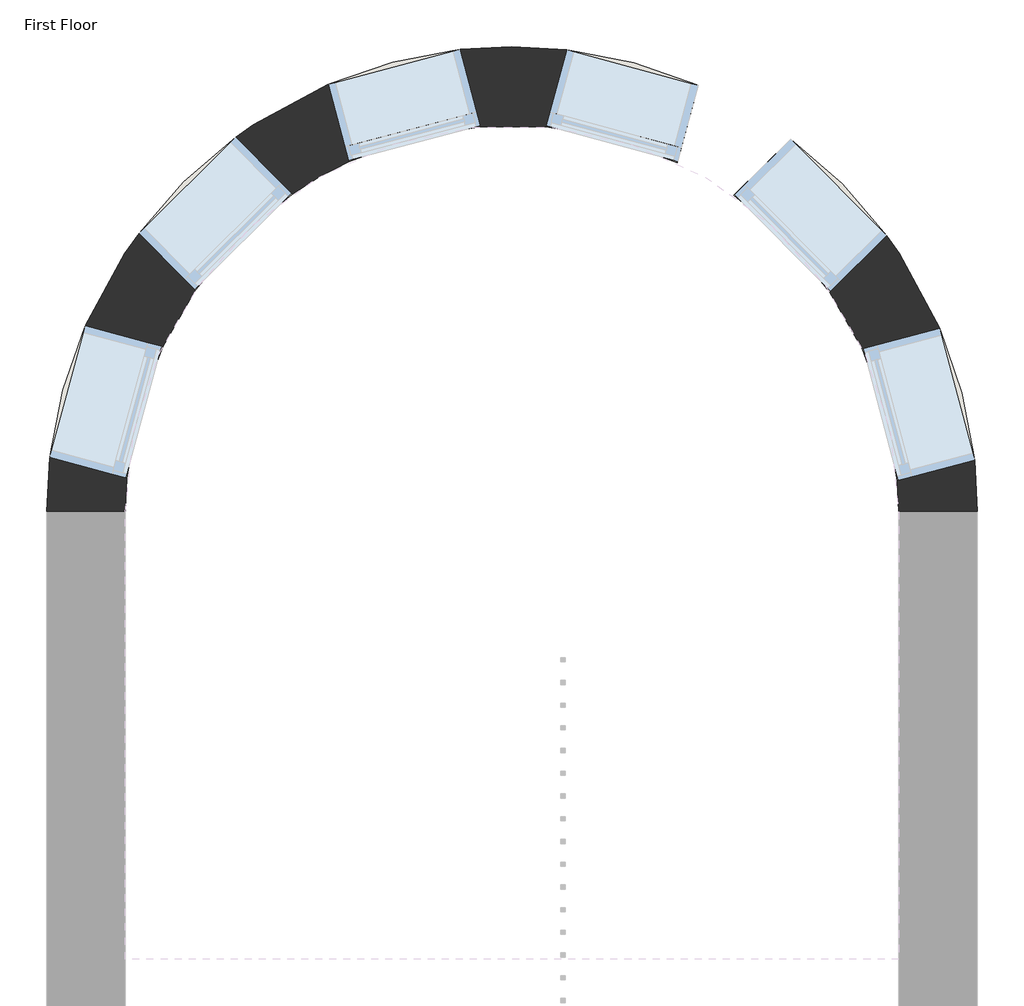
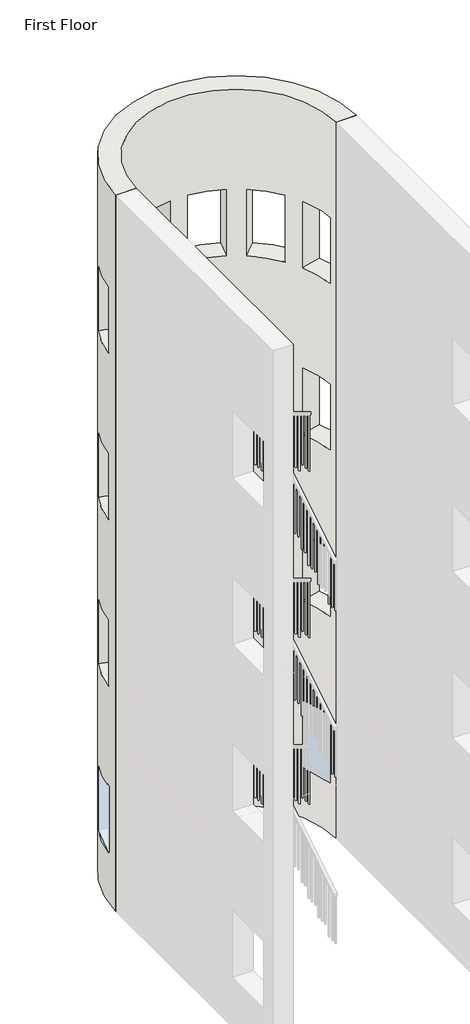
# One storey, part 2 of 5: 1 wall.
"""IFC4 building model written with IfcOpenShell, lengths in millimetres."""

from ifc_helpers import new_model, si_unit, frame, origin, place, context, project, spatial, polyline, circle_curve, element, save
from ifc_brep_helpers import plane_surface, cylinder_surface, revolved_surface, advanced_brep

model = new_model("IFC4")

# Units and contexts
model_context = context("Model", 3, world=origin())
ifc_project = project(units=[si_unit("LENGTHUNIT", "METRE", prefix="MILLI")], contexts=[model_context])

# Site, building, storey
site = spatial("IfcSite", under=ifc_project)
building = spatial("IfcBuilding", under=site)
storey = spatial("IfcBuildingStorey", under=building, Name="First Floor", Elevation=0.0)

# Wall
placement = place(None, origin())
element("IfcWall", 1, ObjectType="Exterior - Brick on Mtl. Stud", at=placement, inside=storey, context=model_context, shape_type="AdvancedBrep", body=[
    advanced_brep(
    [(-4164.4024687, 9592.7758812, 13106.4), (-8326.8274687, 9592.7758812, 13106.4), (-7974.4024687, 9592.7758812, 13106.4), (-4516.8274687, 9592.7758812, 13106.4), (-8326.8274687, 9592.7758812, 0.0), (-4164.4024687, 9592.7758812, 0.0), (-4516.8274687, 9592.7758812, 0.0), (-7974.4024687, 9592.7758812, 0.0), (-8312.3878938, 9837.5107303, 914.4), (-8152.818084, 10425.8555575, 914.4), (-8152.818084, 10425.8555575, 2133.6), (-8312.3878938, 9837.5107303, 2133.6), (-7913.1254012, 10838.1089402, 2133.6), (-7913.1254012, 10838.1089402, 914.4), (-7480.7614786, 11267.8456019, 914.4), (-7480.7614786, 11267.8456019, 2133.6), (-7067.0548348, 11505.0211627, 2133.6), (-7067.0548348, 11505.0211627, 914.4), (-6477.7483633, 11661.0020674, 914.4), (-6477.7483633, 11661.0020674, 2133.6), (-6000.8801197, 11659.5488063, 2133.6), (-6000.8801197, 11659.5488063, 914.4), (-5412.5352924, 11499.9789965, 914.4), (-5412.5352924, 11499.9789965, 2133.6), (-5000.2819097, 11260.2863136, 2133.6), (-5000.2819097, 11260.2863136, 914.4), (-4570.545248, 10827.922391, 914.4), (-4570.545248, 10827.922391, 2133.6), (-4333.3696872, 10414.2157472, 2133.6), (-4333.3696872, 10414.2157472, 914.4), (-4177.3887825, 9824.9092757, 914.4), (-4177.3887825, 9824.9092757, 2133.6), (-4333.3696872, 10414.2157472, 11277.6), (-4333.3696872, 10414.2157472, 10058.4), (-4177.3887825, 9824.9092757, 10058.4), (-4177.3887825, 9824.9092757, 11277.6), (-5000.2819097, 11260.2863136, 11277.6), (-5000.2819097, 11260.2863136, 10058.4), (-4570.545248, 10827.922391, 10058.4), (-4570.545248, 10827.922391, 11277.6), (-6000.8801197, 11659.5488063, 11277.6), (-6000.8801197, 11659.5488063, 10058.4), (-5412.5352924, 11499.9789965, 10058.4), (-5412.5352924, 11499.9789965, 11277.6), (-7067.0548348, 11505.0211627, 11277.6), (-7067.0548348, 11505.0211627, 10058.4), (-6477.7483633, 11661.0020674, 10058.4), (-6477.7483633, 11661.0020674, 11277.6), (-7913.1254012, 10838.1089402, 11277.6), (-7913.1254012, 10838.1089402, 10058.4), (-7480.7614786, 11267.8456019, 10058.4), (-7480.7614786, 11267.8456019, 11277.6), (-8312.3878938, 9837.5107303, 11277.6), (-8312.3878938, 9837.5107303, 10058.4), (-8152.818084, 10425.8555575, 10058.4), (-8152.818084, 10425.8555575, 11277.6), (-4333.3696872, 10414.2157472, 5181.6), (-4333.3696872, 10414.2157472, 3962.4), (-4177.3887825, 9824.9092757, 3962.4), (-4177.3887825, 9824.9092757, 5181.6), (-5000.2819097, 11260.2863136, 5181.6), (-5000.2819097, 11260.2863136, 3962.4), (-4570.545248, 10827.922391, 3962.4), (-4570.545248, 10827.922391, 5181.6), (-6000.8801197, 11659.5488063, 5181.6), (-6000.8801197, 11659.5488063, 3962.4), (-5412.5352924, 11499.9789965, 3962.4), (-5412.5352924, 11499.9789965, 5181.6), (-7067.0548348, 11505.0211627, 5181.6), (-7067.0548348, 11505.0211627, 3962.4), (-6477.7483633, 11661.0020674, 3962.4), (-6477.7483633, 11661.0020674, 5181.6), (-7913.1254012, 10838.1089402, 5181.6), (-7913.1254012, 10838.1089402, 3962.4), (-7480.7614786, 11267.8456019, 3962.4), (-7480.7614786, 11267.8456019, 5181.6), (-8312.3878938, 9837.5107303, 5181.6), (-8312.3878938, 9837.5107303, 3962.4), (-8152.818084, 10425.8555575, 3962.4), (-8152.818084, 10425.8555575, 5181.6), (-4333.3696872, 10414.2157472, 8229.6), (-4333.3696872, 10414.2157472, 7010.4), (-4177.3887825, 9824.9092757, 7010.4), (-4177.3887825, 9824.9092757, 8229.6), (-5000.2819097, 11260.2863136, 8229.6), (-5000.2819097, 11260.2863136, 7010.4), (-4570.545248, 10827.922391, 7010.4), (-4570.545248, 10827.922391, 8229.6), (-6000.8801197, 11659.5488063, 8229.6), (-6000.8801197, 11659.5488063, 7010.4), (-5412.5352924, 11499.9789965, 7010.4), (-5412.5352924, 11499.9789965, 8229.6), (-7067.0548348, 11505.0211627, 8229.6), (-7067.0548348, 11505.0211627, 7010.4), (-6477.7483633, 11661.0020674, 7010.4), (-6477.7483633, 11661.0020674, 8229.6), (-7913.1254012, 10838.1089402, 8229.6), (-7913.1254012, 10838.1089402, 7010.4), (-7480.7614786, 11267.8456019, 7010.4), (-7480.7614786, 11267.8456019, 8229.6), (-8312.3878938, 9837.5107303, 8229.6), (-8312.3878938, 9837.5107303, 7010.4), (-8152.818084, 10425.8555575, 7010.4), (-8152.818084, 10425.8555575, 8229.6), (-7808.2019473, 10332.3893982, 914.4), (-7967.7717571, 9744.0445709, 914.4), (-7967.7717571, 9744.0445709, 2133.6), (-7808.2019473, 10332.3893982, 2133.6), (-7661.4121519, 10584.8568034, 914.4), (-7661.4121519, 10584.8568034, 2133.6), (-7229.0482293, 11014.5934652, 2133.6), (-7229.0482293, 11014.5934652, 914.4), (-6975.6908348, 11159.8417541, 914.4), (-6975.6908348, 11159.8417541, 2133.6), (-6386.3843633, 11315.8226588, 2133.6), (-6386.3843633, 11315.8226588, 914.4), (-6094.346279, 11314.9326695, 914.4), (-6094.346279, 11314.9326695, 2133.6), (-5506.0014517, 11155.3628598, 2133.6), (-5506.0014517, 11155.3628598, 914.4), (-5253.5340465, 11008.5730643, 914.4), (-5253.5340465, 11008.5730643, 2133.6), (-4823.7973847, 10576.2091417, 2133.6), (-4823.7973847, 10576.2091417, 914.4), (-4678.5490959, 10322.8517473, 914.4), (-4678.5490959, 10322.8517473, 2133.6), (-4522.5681912, 9733.5452757, 2133.6), (-4522.5681912, 9733.5452757, 914.4), (-4678.5490959, 10322.8517473, 10058.4), (-4678.5490959, 10322.8517473, 11277.6), (-4522.5681912, 9733.5452757, 11277.6), (-4522.5681912, 9733.5452757, 10058.4), (-5253.5340465, 11008.5730643, 10058.4), (-5253.5340465, 11008.5730643, 11277.6), (-4823.7973847, 10576.2091417, 11277.6), (-4823.7973847, 10576.2091417, 10058.4), (-6094.346279, 11314.9326695, 10058.4), (-6094.346279, 11314.9326695, 11277.6), (-5506.0014517, 11155.3628598, 11277.6), (-5506.0014517, 11155.3628598, 10058.4), (-6975.6908348, 11159.8417541, 10058.4), (-6975.6908348, 11159.8417541, 11277.6), (-6386.3843633, 11315.8226588, 11277.6), (-6386.3843633, 11315.8226588, 10058.4), (-7661.4121519, 10584.8568034, 10058.4), (-7661.4121519, 10584.8568034, 11277.6), (-7229.0482293, 11014.5934652, 11277.6), (-7229.0482293, 11014.5934652, 10058.4), (-7967.7717571, 9744.0445709, 10058.4), (-7967.7717571, 9744.0445709, 11277.6), (-7808.2019473, 10332.3893982, 11277.6), (-7808.2019473, 10332.3893982, 10058.4), (-4678.5490959, 10322.8517473, 3962.4), (-4678.5490959, 10322.8517473, 5181.6), (-4522.5681912, 9733.5452757, 5181.6), (-4522.5681912, 9733.5452757, 3962.4), (-5253.5340465, 11008.5730643, 3962.4), (-5253.5340465, 11008.5730643, 5181.6), (-4823.7973847, 10576.2091417, 5181.6), (-4823.7973847, 10576.2091417, 3962.4), (-6094.346279, 11314.9326695, 3962.4), (-6094.346279, 11314.9326695, 5181.6), (-5506.0014517, 11155.3628598, 5181.6), (-5506.0014517, 11155.3628598, 3962.4), (-6975.6908348, 11159.8417541, 3962.4), (-6975.6908348, 11159.8417541, 5181.6), (-6386.3843633, 11315.8226588, 5181.6), (-6386.3843633, 11315.8226588, 3962.4), (-7661.4121519, 10584.8568034, 3962.4), (-7661.4121519, 10584.8568034, 5181.6), (-7229.0482293, 11014.5934652, 5181.6), (-7229.0482293, 11014.5934652, 3962.4), (-7967.7717571, 9744.0445709, 3962.4), (-7967.7717571, 9744.0445709, 5181.6), (-7808.2019473, 10332.3893982, 5181.6), (-7808.2019473, 10332.3893982, 3962.4), (-4678.5490959, 10322.8517473, 7010.4), (-4678.5490959, 10322.8517473, 8229.6), (-4522.5681912, 9733.5452757, 8229.6), (-4522.5681912, 9733.5452757, 7010.4), (-5253.5340465, 11008.5730643, 7010.4), (-5253.5340465, 11008.5730643, 8229.6), (-4823.7973847, 10576.2091417, 8229.6), (-4823.7973847, 10576.2091417, 7010.4), (-6094.346279, 11314.9326695, 7010.4), (-6094.346279, 11314.9326695, 8229.6), (-5506.0014517, 11155.3628598, 8229.6), (-5506.0014517, 11155.3628598, 7010.4), (-6975.6908348, 11159.8417541, 7010.4), (-6975.6908348, 11159.8417541, 8229.6), (-6386.3843633, 11315.8226588, 8229.6), (-6386.3843633, 11315.8226588, 7010.4), (-7661.4121519, 10584.8568034, 7010.4), (-7661.4121519, 10584.8568034, 8229.6), (-7229.0482293, 11014.5934652, 8229.6), (-7229.0482293, 11014.5934652, 7010.4), (-7967.7717571, 9744.0445709, 7010.4), (-7967.7717571, 9744.0445709, 8229.6), (-7808.2019473, 10332.3893982, 8229.6), (-7808.2019473, 10332.3893982, 7010.4)],
    [
        (0, 1, circle_curve(frame((-6245.6149687, 9592.7758812, 13106.4), z_axis=(0.0, 0.0, 1.0), x_axis=(1.0, 0.0, 0.0)), 2081.2125)),
        (1, 2),
        (2, 3, circle_curve(frame((-6245.6149687, 9592.7758812, 13106.4), z_axis=(0.0, 0.0, -1.0), x_axis=(1.0, 0.0, 0.0)), 1728.7875)),
        (3, 0),
        (4, 5, circle_curve(frame((-6245.6149687, 9592.7758812, 0.0), z_axis=(0.0, 0.0, -1.0), x_axis=(1.0, 0.0, 0.0)), 2081.2125)),
        (5, 6),
        (6, 7, circle_curve(frame((-6245.6149687, 9592.7758812, 0.0), z_axis=(0.0, 0.0, 1.0), x_axis=(1.0, 0.0, 0.0)), 1728.7875)),
        (7, 4),
        (0, 5),
        (4, 1),
        (8, 9, circle_curve(frame((-6245.6149687, 9592.7758812, 914.4), z_axis=(0.0, 0.0, -1.0), x_axis=(1.0, 0.0, 0.0)), 2081.2125)),
        (9, 10),
        (10, 11, circle_curve(frame((-6245.6149687, 9592.7758812, 2133.6), z_axis=(0.0, 0.0, 1.0), x_axis=(1.0, 0.0, 0.0)), 2081.2125)),
        (11, 8),
        (12, 13),
        (13, 14, circle_curve(frame((-6245.6149687, 9592.7758812, 914.4), z_axis=(0.0, 0.0, -1.0), x_axis=(1.0, 0.0, 0.0)), 2081.2125)),
        (14, 15),
        (15, 12, circle_curve(frame((-6245.6149687, 9592.7758812, 2133.6), z_axis=(0.0, 0.0, 1.0), x_axis=(1.0, 0.0, 0.0)), 2081.2125)),
        (16, 17),
        (17, 18, circle_curve(frame((-6245.6149687, 9592.7758812, 914.4), z_axis=(0.0, 0.0, -1.0), x_axis=(1.0, 0.0, 0.0)), 2081.2125)),
        (18, 19),
        (19, 16, circle_curve(frame((-6245.6149687, 9592.7758812, 2133.6), z_axis=(0.0, 0.0, 1.0), x_axis=(1.0, 0.0, 0.0)), 2081.2125)),
        (20, 21),
        (21, 22, circle_curve(frame((-6245.6149687, 9592.7758812, 914.4), z_axis=(0.0, 0.0, -1.0), x_axis=(1.0, 0.0, 0.0)), 2081.2125)),
        (22, 23),
        (23, 20, circle_curve(frame((-6245.6149687, 9592.7758812, 2133.6), z_axis=(0.0, 0.0, 1.0), x_axis=(1.0, 0.0, 0.0)), 2081.2125)),
        (24, 25),
        (25, 26, circle_curve(frame((-6245.6149687, 9592.7758812, 914.4), z_axis=(0.0, 0.0, -1.0), x_axis=(1.0, 0.0, 0.0)), 2081.2125)),
        (26, 27),
        (27, 24, circle_curve(frame((-6245.6149687, 9592.7758812, 2133.6), z_axis=(0.0, 0.0, 1.0), x_axis=(1.0, 0.0, 0.0)), 2081.2125)),
        (28, 29),
        (29, 30, circle_curve(frame((-6245.6149687, 9592.7758812, 914.4), z_axis=(0.0, 0.0, -1.0), x_axis=(1.0, 0.0, 0.0)), 2081.2125)),
        (30, 31),
        (31, 28, circle_curve(frame((-6245.6149687, 9592.7758812, 2133.6), z_axis=(0.0, 0.0, 1.0), x_axis=(1.0, 0.0, 0.0)), 2081.2125)),
        (32, 33),
        (33, 34, circle_curve(frame((-6245.6149687, 9592.7758812, 10058.4), z_axis=(0.0, 0.0, -1.0), x_axis=(1.0, 0.0, 0.0)), 2081.2125)),
        (34, 35),
        (35, 32, circle_curve(frame((-6245.6149687, 9592.7758812, 11277.6), z_axis=(0.0, 0.0, 1.0), x_axis=(1.0, 0.0, 0.0)), 2081.2125)),
        (36, 37),
        (37, 38, circle_curve(frame((-6245.6149687, 9592.7758812, 10058.4), z_axis=(0.0, 0.0, -1.0), x_axis=(1.0, 0.0, 0.0)), 2081.2125)),
        (38, 39),
        (39, 36, circle_curve(frame((-6245.6149687, 9592.7758812, 11277.6), z_axis=(0.0, 0.0, 1.0), x_axis=(1.0, 0.0, 0.0)), 2081.2125)),
        (40, 41),
        (41, 42, circle_curve(frame((-6245.6149687, 9592.7758812, 10058.4), z_axis=(0.0, 0.0, -1.0), x_axis=(1.0, 0.0, 0.0)), 2081.2125)),
        (42, 43),
        (43, 40, circle_curve(frame((-6245.6149687, 9592.7758812, 11277.6), z_axis=(0.0, 0.0, 1.0), x_axis=(1.0, 0.0, 0.0)), 2081.2125)),
        (44, 45),
        (45, 46, circle_curve(frame((-6245.6149687, 9592.7758812, 10058.4), z_axis=(0.0, 0.0, -1.0), x_axis=(1.0, 0.0, 0.0)), 2081.2125)),
        (46, 47),
        (47, 44, circle_curve(frame((-6245.6149687, 9592.7758812, 11277.6), z_axis=(0.0, 0.0, 1.0), x_axis=(1.0, 0.0, 0.0)), 2081.2125)),
        (48, 49),
        (49, 50, circle_curve(frame((-6245.6149687, 9592.7758812, 10058.4), z_axis=(0.0, 0.0, -1.0), x_axis=(1.0, 0.0, 0.0)), 2081.2125)),
        (50, 51),
        (51, 48, circle_curve(frame((-6245.6149687, 9592.7758812, 11277.6), z_axis=(0.0, 0.0, 1.0), x_axis=(1.0, 0.0, 0.0)), 2081.2125)),
        (52, 53),
        (53, 54, circle_curve(frame((-6245.6149687, 9592.7758812, 10058.4), z_axis=(0.0, 0.0, -1.0), x_axis=(1.0, 0.0, 0.0)), 2081.2125)),
        (54, 55),
        (55, 52, circle_curve(frame((-6245.6149687, 9592.7758812, 11277.6), z_axis=(0.0, 0.0, 1.0), x_axis=(1.0, 0.0, 0.0)), 2081.2125)),
        (56, 57),
        (57, 58, circle_curve(frame((-6245.6149687, 9592.7758812, 3962.4), z_axis=(0.0, 0.0, -1.0), x_axis=(1.0, 0.0, 0.0)), 2081.2125)),
        (58, 59),
        (59, 56, circle_curve(frame((-6245.6149687, 9592.7758812, 5181.6), z_axis=(0.0, 0.0, 1.0), x_axis=(1.0, 0.0, 0.0)), 2081.2125)),
        (60, 61),
        (61, 62, circle_curve(frame((-6245.6149687, 9592.7758812, 3962.4), z_axis=(0.0, 0.0, -1.0), x_axis=(1.0, 0.0, 0.0)), 2081.2125)),
        (62, 63),
        (63, 60, circle_curve(frame((-6245.6149687, 9592.7758812, 5181.6), z_axis=(0.0, 0.0, 1.0), x_axis=(1.0, 0.0, 0.0)), 2081.2125)),
        (64, 65),
        (65, 66, circle_curve(frame((-6245.6149687, 9592.7758812, 3962.4), z_axis=(0.0, 0.0, -1.0), x_axis=(1.0, 0.0, 0.0)), 2081.2125)),
        (66, 67),
        (67, 64, circle_curve(frame((-6245.6149687, 9592.7758812, 5181.6), z_axis=(0.0, 0.0, 1.0), x_axis=(1.0, 0.0, 0.0)), 2081.2125)),
        (68, 69),
        (69, 70, circle_curve(frame((-6245.6149687, 9592.7758812, 3962.4), z_axis=(0.0, 0.0, -1.0), x_axis=(1.0, 0.0, 0.0)), 2081.2125)),
        (70, 71),
        (71, 68, circle_curve(frame((-6245.6149687, 9592.7758812, 5181.6), z_axis=(0.0, 0.0, 1.0), x_axis=(1.0, 0.0, 0.0)), 2081.2125)),
        (72, 73),
        (73, 74, circle_curve(frame((-6245.6149687, 9592.7758812, 3962.4), z_axis=(0.0, 0.0, -1.0), x_axis=(1.0, 0.0, 0.0)), 2081.2125)),
        (74, 75),
        (75, 72, circle_curve(frame((-6245.6149687, 9592.7758812, 5181.6), z_axis=(0.0, 0.0, 1.0), x_axis=(1.0, 0.0, 0.0)), 2081.2125)),
        (76, 77),
        (77, 78, circle_curve(frame((-6245.6149687, 9592.7758812, 3962.4), z_axis=(0.0, 0.0, -1.0), x_axis=(1.0, 0.0, 0.0)), 2081.2125)),
        (78, 79),
        (79, 76, circle_curve(frame((-6245.6149687, 9592.7758812, 5181.6), z_axis=(0.0, 0.0, 1.0), x_axis=(1.0, 0.0, 0.0)), 2081.2125)),
        (80, 81),
        (81, 82, circle_curve(frame((-6245.6149687, 9592.7758812, 7010.4), z_axis=(0.0, 0.0, -1.0), x_axis=(1.0, 0.0, 0.0)), 2081.2125)),
        (82, 83),
        (83, 80, circle_curve(frame((-6245.6149687, 9592.7758812, 8229.6), z_axis=(0.0, 0.0, 1.0), x_axis=(1.0, 0.0, 0.0)), 2081.2125)),
        (84, 85),
        (85, 86, circle_curve(frame((-6245.6149687, 9592.7758812, 7010.4), z_axis=(0.0, 0.0, -1.0), x_axis=(1.0, 0.0, 0.0)), 2081.2125)),
        (86, 87),
        (87, 84, circle_curve(frame((-6245.6149687, 9592.7758812, 8229.6), z_axis=(0.0, 0.0, 1.0), x_axis=(1.0, 0.0, 0.0)), 2081.2125)),
        (88, 89),
        (89, 90, circle_curve(frame((-6245.6149687, 9592.7758812, 7010.4), z_axis=(0.0, 0.0, -1.0), x_axis=(1.0, 0.0, 0.0)), 2081.2125)),
        (90, 91),
        (91, 88, circle_curve(frame((-6245.6149687, 9592.7758812, 8229.6), z_axis=(0.0, 0.0, 1.0), x_axis=(1.0, 0.0, 0.0)), 2081.2125)),
        (92, 93),
        (93, 94, circle_curve(frame((-6245.6149687, 9592.7758812, 7010.4), z_axis=(0.0, 0.0, -1.0), x_axis=(1.0, 0.0, 0.0)), 2081.2125)),
        (94, 95),
        (95, 92, circle_curve(frame((-6245.6149687, 9592.7758812, 8229.6), z_axis=(0.0, 0.0, 1.0), x_axis=(1.0, 0.0, 0.0)), 2081.2125)),
        (96, 97),
        (97, 98, circle_curve(frame((-6245.6149687, 9592.7758812, 7010.4), z_axis=(0.0, 0.0, -1.0), x_axis=(1.0, 0.0, 0.0)), 2081.2125)),
        (98, 99),
        (99, 96, circle_curve(frame((-6245.6149687, 9592.7758812, 8229.6), z_axis=(0.0, 0.0, 1.0), x_axis=(1.0, 0.0, 0.0)), 2081.2125)),
        (100, 101),
        (101, 102, circle_curve(frame((-6245.6149687, 9592.7758812, 7010.4), z_axis=(0.0, 0.0, -1.0), x_axis=(1.0, 0.0, 0.0)), 2081.2125)),
        (102, 103),
        (103, 100, circle_curve(frame((-6245.6149687, 9592.7758812, 8229.6), z_axis=(0.0, 0.0, 1.0), x_axis=(1.0, 0.0, 0.0)), 2081.2125)),
        (7, 2),
        (6, 3),
        (104, 105, circle_curve(frame((-6245.6149687, 9592.7758812, 914.4), z_axis=(0.0, 0.0, 1.0), x_axis=(1.0, 0.0, 0.0)), 1728.7875)),
        (105, 106),
        (106, 107, circle_curve(frame((-6245.6149687, 9592.7758812, 2133.6), z_axis=(0.0, 0.0, -1.0), x_axis=(1.0, 0.0, 0.0)), 1728.7875)),
        (107, 104),
        (108, 109),
        (109, 110, circle_curve(frame((-6245.6149687, 9592.7758812, 2133.6), z_axis=(0.0, 0.0, -1.0), x_axis=(1.0, 0.0, 0.0)), 1728.7875)),
        (110, 111),
        (111, 108, circle_curve(frame((-6245.6149687, 9592.7758812, 914.4), z_axis=(0.0, 0.0, 1.0), x_axis=(1.0, 0.0, 0.0)), 1728.7875)),
        (112, 113),
        (113, 114, circle_curve(frame((-6245.6149687, 9592.7758812, 2133.6), z_axis=(0.0, 0.0, -1.0), x_axis=(1.0, 0.0, 0.0)), 1728.7875)),
        (114, 115),
        (115, 112, circle_curve(frame((-6245.6149687, 9592.7758812, 914.4), z_axis=(0.0, 0.0, 1.0), x_axis=(1.0, 0.0, 0.0)), 1728.7875)),
        (116, 117),
        (117, 118, circle_curve(frame((-6245.6149687, 9592.7758812, 2133.6), z_axis=(0.0, 0.0, -1.0), x_axis=(1.0, 0.0, 0.0)), 1728.7875)),
        (118, 119),
        (119, 116, circle_curve(frame((-6245.6149687, 9592.7758812, 914.4), z_axis=(0.0, 0.0, 1.0), x_axis=(1.0, 0.0, 0.0)), 1728.7875)),
        (120, 121),
        (121, 122, circle_curve(frame((-6245.6149687, 9592.7758812, 2133.6), z_axis=(0.0, 0.0, -1.0), x_axis=(1.0, 0.0, 0.0)), 1728.7875)),
        (122, 123),
        (123, 120, circle_curve(frame((-6245.6149687, 9592.7758812, 914.4), z_axis=(0.0, 0.0, 1.0), x_axis=(1.0, 0.0, 0.0)), 1728.7875)),
        (124, 125),
        (125, 126, circle_curve(frame((-6245.6149687, 9592.7758812, 2133.6), z_axis=(0.0, 0.0, -1.0), x_axis=(1.0, 0.0, 0.0)), 1728.7875)),
        (126, 127),
        (127, 124, circle_curve(frame((-6245.6149687, 9592.7758812, 914.4), z_axis=(0.0, 0.0, 1.0), x_axis=(1.0, 0.0, 0.0)), 1728.7875)),
        (128, 129),
        (129, 130, circle_curve(frame((-6245.6149687, 9592.7758812, 11277.6), z_axis=(0.0, 0.0, -1.0), x_axis=(1.0, 0.0, 0.0)), 1728.7875)),
        (130, 131),
        (131, 128, circle_curve(frame((-6245.6149687, 9592.7758812, 10058.4), z_axis=(0.0, 0.0, 1.0), x_axis=(1.0, 0.0, 0.0)), 1728.7875)),
        (132, 133),
        (133, 134, circle_curve(frame((-6245.6149687, 9592.7758812, 11277.6), z_axis=(0.0, 0.0, -1.0), x_axis=(1.0, 0.0, 0.0)), 1728.7875)),
        (134, 135),
        (135, 132, circle_curve(frame((-6245.6149687, 9592.7758812, 10058.4), z_axis=(0.0, 0.0, 1.0), x_axis=(1.0, 0.0, 0.0)), 1728.7875)),
        (136, 137),
        (137, 138, circle_curve(frame((-6245.6149687, 9592.7758812, 11277.6), z_axis=(0.0, 0.0, -1.0), x_axis=(1.0, 0.0, 0.0)), 1728.7875)),
        (138, 139),
        (139, 136, circle_curve(frame((-6245.6149687, 9592.7758812, 10058.4), z_axis=(0.0, 0.0, 1.0), x_axis=(1.0, 0.0, 0.0)), 1728.7875)),
        (140, 141),
        (141, 142, circle_curve(frame((-6245.6149687, 9592.7758812, 11277.6), z_axis=(0.0, 0.0, -1.0), x_axis=(1.0, 0.0, 0.0)), 1728.7875)),
        (142, 143),
        (143, 140, circle_curve(frame((-6245.6149687, 9592.7758812, 10058.4), z_axis=(0.0, 0.0, 1.0), x_axis=(1.0, 0.0, 0.0)), 1728.7875)),
        (144, 145),
        (145, 146, circle_curve(frame((-6245.6149687, 9592.7758812, 11277.6), z_axis=(0.0, 0.0, -1.0), x_axis=(1.0, 0.0, 0.0)), 1728.7875)),
        (146, 147),
        (147, 144, circle_curve(frame((-6245.6149687, 9592.7758812, 10058.4), z_axis=(0.0, 0.0, 1.0), x_axis=(1.0, 0.0, 0.0)), 1728.7875)),
        (148, 149),
        (149, 150, circle_curve(frame((-6245.6149687, 9592.7758812, 11277.6), z_axis=(0.0, 0.0, -1.0), x_axis=(1.0, 0.0, 0.0)), 1728.7875)),
        (150, 151),
        (151, 148, circle_curve(frame((-6245.6149687, 9592.7758812, 10058.4), z_axis=(0.0, 0.0, 1.0), x_axis=(1.0, 0.0, 0.0)), 1728.7875)),
        (152, 153),
        (153, 154, circle_curve(frame((-6245.6149687, 9592.7758812, 5181.6), z_axis=(0.0, 0.0, -1.0), x_axis=(1.0, 0.0, 0.0)), 1728.7875)),
        (154, 155),
        (155, 152, circle_curve(frame((-6245.6149687, 9592.7758812, 3962.4), z_axis=(0.0, 0.0, 1.0), x_axis=(1.0, 0.0, 0.0)), 1728.7875)),
        (156, 157),
        (157, 158, circle_curve(frame((-6245.6149687, 9592.7758812, 5181.6), z_axis=(0.0, 0.0, -1.0), x_axis=(1.0, 0.0, 0.0)), 1728.7875)),
        (158, 159),
        (159, 156, circle_curve(frame((-6245.6149687, 9592.7758812, 3962.4), z_axis=(0.0, 0.0, 1.0), x_axis=(1.0, 0.0, 0.0)), 1728.7875)),
        (160, 161),
        (161, 162, circle_curve(frame((-6245.6149687, 9592.7758812, 5181.6), z_axis=(0.0, 0.0, -1.0), x_axis=(1.0, 0.0, 0.0)), 1728.7875)),
        (162, 163),
        (163, 160, circle_curve(frame((-6245.6149687, 9592.7758812, 3962.4), z_axis=(0.0, 0.0, 1.0), x_axis=(1.0, 0.0, 0.0)), 1728.7875)),
        (164, 165),
        (165, 166, circle_curve(frame((-6245.6149687, 9592.7758812, 5181.6), z_axis=(0.0, 0.0, -1.0), x_axis=(1.0, 0.0, 0.0)), 1728.7875)),
        (166, 167),
        (167, 164, circle_curve(frame((-6245.6149687, 9592.7758812, 3962.4), z_axis=(0.0, 0.0, 1.0), x_axis=(1.0, 0.0, 0.0)), 1728.7875)),
        (168, 169),
        (169, 170, circle_curve(frame((-6245.6149687, 9592.7758812, 5181.6), z_axis=(0.0, 0.0, -1.0), x_axis=(1.0, 0.0, 0.0)), 1728.7875)),
        (170, 171),
        (171, 168, circle_curve(frame((-6245.6149687, 9592.7758812, 3962.4), z_axis=(0.0, 0.0, 1.0), x_axis=(1.0, 0.0, 0.0)), 1728.7875)),
        (172, 173),
        (173, 174, circle_curve(frame((-6245.6149687, 9592.7758812, 5181.6), z_axis=(0.0, 0.0, -1.0), x_axis=(1.0, 0.0, 0.0)), 1728.7875)),
        (174, 175),
        (175, 172, circle_curve(frame((-6245.6149687, 9592.7758812, 3962.4), z_axis=(0.0, 0.0, 1.0), x_axis=(1.0, 0.0, 0.0)), 1728.7875)),
        (176, 177),
        (177, 178, circle_curve(frame((-6245.6149687, 9592.7758812, 8229.6), z_axis=(0.0, 0.0, -1.0), x_axis=(1.0, 0.0, 0.0)), 1728.7875)),
        (178, 179),
        (179, 176, circle_curve(frame((-6245.6149687, 9592.7758812, 7010.4), z_axis=(0.0, 0.0, 1.0), x_axis=(1.0, 0.0, 0.0)), 1728.7875)),
        (180, 181),
        (181, 182, circle_curve(frame((-6245.6149687, 9592.7758812, 8229.6), z_axis=(0.0, 0.0, -1.0), x_axis=(1.0, 0.0, 0.0)), 1728.7875)),
        (182, 183),
        (183, 180, circle_curve(frame((-6245.6149687, 9592.7758812, 7010.4), z_axis=(0.0, 0.0, 1.0), x_axis=(1.0, 0.0, 0.0)), 1728.7875)),
        (184, 185),
        (185, 186, circle_curve(frame((-6245.6149687, 9592.7758812, 8229.6), z_axis=(0.0, 0.0, -1.0), x_axis=(1.0, 0.0, 0.0)), 1728.7875)),
        (186, 187),
        (187, 184, circle_curve(frame((-6245.6149687, 9592.7758812, 7010.4), z_axis=(0.0, 0.0, 1.0), x_axis=(1.0, 0.0, 0.0)), 1728.7875)),
        (188, 189),
        (189, 190, circle_curve(frame((-6245.6149687, 9592.7758812, 8229.6), z_axis=(0.0, 0.0, -1.0), x_axis=(1.0, 0.0, 0.0)), 1728.7875)),
        (190, 191),
        (191, 188, circle_curve(frame((-6245.6149687, 9592.7758812, 7010.4), z_axis=(0.0, 0.0, 1.0), x_axis=(1.0, 0.0, 0.0)), 1728.7875)),
        (192, 193),
        (193, 194, circle_curve(frame((-6245.6149687, 9592.7758812, 8229.6), z_axis=(0.0, 0.0, -1.0), x_axis=(1.0, 0.0, 0.0)), 1728.7875)),
        (194, 195),
        (195, 192, circle_curve(frame((-6245.6149687, 9592.7758812, 7010.4), z_axis=(0.0, 0.0, 1.0), x_axis=(1.0, 0.0, 0.0)), 1728.7875)),
        (196, 197),
        (197, 198, circle_curve(frame((-6245.6149687, 9592.7758812, 8229.6), z_axis=(0.0, 0.0, -1.0), x_axis=(1.0, 0.0, 0.0)), 1728.7875)),
        (198, 199),
        (199, 196, circle_curve(frame((-6245.6149687, 9592.7758812, 7010.4), z_axis=(0.0, 0.0, 1.0), x_axis=(1.0, 0.0, 0.0)), 1728.7875)),
        (104, 9),
        (8, 105),
        (107, 10),
        (106, 11),
        (108, 13),
        (12, 109),
        (111, 14),
        (110, 15),
        (16, 113),
        (112, 17),
        (115, 18),
        (114, 19),
        (20, 117),
        (116, 21),
        (119, 22),
        (118, 23),
        (24, 121),
        (120, 25),
        (123, 26),
        (122, 27),
        (28, 125),
        (124, 29),
        (127, 30),
        (126, 31),
        (32, 129),
        (128, 33),
        (131, 34),
        (130, 35),
        (36, 133),
        (132, 37),
        (135, 38),
        (134, 39),
        (40, 137),
        (136, 41),
        (139, 42),
        (138, 43),
        (44, 141),
        (140, 45),
        (143, 46),
        (142, 47),
        (48, 145),
        (144, 49),
        (147, 50),
        (146, 51),
        (52, 149),
        (148, 53),
        (151, 54),
        (150, 55),
        (56, 153),
        (152, 57),
        (155, 58),
        (154, 59),
        (60, 157),
        (156, 61),
        (159, 62),
        (158, 63),
        (64, 161),
        (160, 65),
        (163, 66),
        (162, 67),
        (68, 165),
        (164, 69),
        (167, 70),
        (166, 71),
        (72, 169),
        (168, 73),
        (171, 74),
        (170, 75),
        (76, 173),
        (172, 77),
        (175, 78),
        (174, 79),
        (80, 177),
        (176, 81),
        (179, 82),
        (178, 83),
        (84, 181),
        (180, 85),
        (183, 86),
        (182, 87),
        (88, 185),
        (184, 89),
        (187, 90),
        (186, 91),
        (92, 189),
        (188, 93),
        (191, 94),
        (190, 95),
        (96, 193),
        (192, 97),
        (195, 98),
        (194, 99),
        (100, 197),
        (196, 101),
        (199, 102),
        (198, 103),
    ],
    [
        plane_surface(frame((-4164.4024687, 9592.7758812, 13106.4), z_axis=(0.0, 0.0, 1.0), x_axis=(0.0, 1.0, 0.0))),
        plane_surface(frame((-4164.4024687, 9592.7758812, 0.0), z_axis=(0.0, 0.0, -1.0), x_axis=(0.0, -1.0, 0.0))),
        cylinder_surface(frame((-6245.6149687, 9592.7758812, 0.0), z_axis=(0.0, 0.0, 1.0), x_axis=(1.0, 0.0, 0.0)), 2081.2125),
        plane_surface(frame((-8326.8274687, 9592.7758812, 13106.4), z_axis=(0.0, -1.0, 0.0), x_axis=(0.0, 0.0, -1.0))),
        revolved_surface(polyline([(-4516.827468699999, 9592.7758812, 0.0), (-4516.827468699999, 9592.7758812, 13106.4)]), (-6245.6149687, 9592.7758812, 0.0), (0.0, 0.0, -1.0)),
        plane_surface(frame((-4516.8274687, 9592.7758812, 13106.4), z_axis=(0.0, -1.0, 0.0), x_axis=(0.0, 0.0, -1.0))),
        plane_surface(frame((-6841.5258256, 9438.5862058, 914.4), z_axis=(0.0, 0.0, 1.0000000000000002), x_axis=(-0.9651325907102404, 0.26176149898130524, 0.0))),
        plane_surface(frame((-6681.9560158, 10026.9310331, 914.4), z_axis=(-0.2617614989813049, -0.9651325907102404, 0.0), x_axis=(-0.9651325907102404, 0.2617614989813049, 0.0))),
        plane_surface(frame((-6681.9560158, 10026.9310331, 2133.6), z_axis=(0.0, 0.0, -1.0), x_axis=(-0.9651325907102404, 0.2617614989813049, 0.0))),
        plane_surface(frame((-6841.5258256, 9438.5862058, 2133.6), z_axis=(0.26176149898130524, 0.9651325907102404, 0.0), x_axis=(-0.9651325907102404, 0.26176149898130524, 0.0))),
        plane_surface(frame((-6838.7837468, 9757.1991337, 2133.6), z_axis=(0.7092584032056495, 0.70494859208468, 0.0), x_axis=(-0.70494859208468, 0.7092584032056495, 0.0))),
        plane_surface(frame((-6838.7837468, 9757.1991337, 914.4), z_axis=(0.0, 0.0, 1.0), x_axis=(-0.7049485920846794, 0.7092584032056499, 0.0))),
        plane_surface(frame((-6406.4198242, 10186.9357955, 914.4), z_axis=(-0.7092584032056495, -0.70494859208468, 0.0), x_axis=(-0.70494859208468, 0.7092584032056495, 0.0))),
        plane_surface(frame((-6406.4198242, 10186.9357955, 2133.6), z_axis=(0.0, 0.0, -1.0), x_axis=(-0.70494859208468, 0.7092584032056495, 0.0))),
        plane_surface(frame((-7067.0548348, 11505.0211627, 2133.6), z_axis=(0.966710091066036, 0.2558741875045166, 0.0), x_axis=(0.2558741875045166, -0.966710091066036, 0.0))),
        plane_surface(frame((-7067.0548348, 11505.0211627, 914.4), z_axis=(0.0, 0.0, 1.0000000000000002), x_axis=(0.2558741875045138, -0.9667100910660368, 0.0))),
        plane_surface(frame((-6477.7483633, 11661.0020674, 914.4), z_axis=(-0.9667100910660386, -0.2558741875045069, 0.0), x_axis=(0.2558741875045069, -0.9667100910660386, 0.0))),
        plane_surface(frame((-6477.7483633, 11661.0020674, 2133.6), z_axis=(0.0, 0.0, -1.0000000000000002), x_axis=(0.2558741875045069, -0.9667100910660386, 0.0))),
        plane_surface(frame((-6000.8801197, 11659.5488063, 2133.6), z_axis=(0.9651325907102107, -0.2617614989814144, 0.0), x_axis=(-0.2617614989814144, -0.9651325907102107, 0.0))),
        plane_surface(frame((-6000.8801197, 11659.5488063, 914.4), z_axis=(0.0, 0.0, 1.0000000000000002), x_axis=(-0.26176149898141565, -0.9651325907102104, 0.0))),
        plane_surface(frame((-5412.5352924, 11499.9789965, 914.4), z_axis=(-0.9651325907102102, 0.26176149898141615, 0.0), x_axis=(-0.26176149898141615, -0.9651325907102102, 0.0))),
        plane_surface(frame((-5412.5352924, 11499.9789965, 2133.6), z_axis=(0.0, 0.0, -1.0), x_axis=(-0.26176149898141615, -0.9651325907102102, 0.0))),
        plane_surface(frame((-5000.2819097, 11260.2863136, 2133.6), z_axis=(0.7049485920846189, -0.7092584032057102, 0.0), x_axis=(-0.7092584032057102, -0.7049485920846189, 0.0))),
        plane_surface(frame((-5000.2819097, 11260.2863136, 914.4), z_axis=(0.0, 0.0, 1.0000000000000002), x_axis=(-0.7092584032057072, -0.7049485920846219, 0.0))),
        plane_surface(frame((-4570.545248, 10827.922391, 914.4), z_axis=(-0.7049485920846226, 0.7092584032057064, 0.0), x_axis=(-0.7092584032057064, -0.7049485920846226, 0.0))),
        plane_surface(frame((-4570.545248, 10827.922391, 2133.6), z_axis=(0.0, 0.0, -1.0), x_axis=(-0.7092584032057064, -0.7049485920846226, 0.0))),
        plane_surface(frame((-4333.3696872, 10414.2157472, 2133.6), z_axis=(0.2558741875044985, -0.9667100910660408, 0.0), x_axis=(-0.9667100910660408, -0.2558741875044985, 0.0))),
        plane_surface(frame((-4333.3696872, 10414.2157472, 914.4), z_axis=(0.0, 0.0, 1.0), x_axis=(-0.9667100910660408, -0.2558741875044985, 0.0))),
        plane_surface(frame((-4177.3887825, 9824.9092757, 914.4), z_axis=(-0.2558741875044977, 0.966710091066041, 0.0), x_axis=(-0.966710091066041, -0.2558741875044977, 0.0))),
        plane_surface(frame((-4177.3887825, 9824.9092757, 2133.6), z_axis=(0.0, 0.0, -1.0), x_axis=(-0.966710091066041, -0.2558741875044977, 0.0))),
        plane_surface(frame((-4333.3696872, 10414.2157472, 11277.6), z_axis=(0.2558741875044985, -0.9667100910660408, 0.0), x_axis=(-0.9667100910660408, -0.2558741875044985, 0.0))),
        plane_surface(frame((-4333.3696872, 10414.2157472, 10058.4), z_axis=(0.0, 0.0, 1.0), x_axis=(-0.9667100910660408, -0.2558741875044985, 0.0))),
        plane_surface(frame((-4177.3887825, 9824.9092757, 10058.4), z_axis=(-0.2558741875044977, 0.966710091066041, 0.0), x_axis=(-0.966710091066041, -0.2558741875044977, 0.0))),
        plane_surface(frame((-4177.3887825, 9824.9092757, 11277.6), z_axis=(0.0, 0.0, -1.0), x_axis=(-0.966710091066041, -0.2558741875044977, 0.0))),
        plane_surface(frame((-5000.2819097, 11260.2863136, 11277.6), z_axis=(0.7049485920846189, -0.7092584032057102, 0.0), x_axis=(-0.7092584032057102, -0.7049485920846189, 0.0))),
        plane_surface(frame((-5000.2819097, 11260.2863136, 10058.4), z_axis=(0.0, 0.0, 1.0000000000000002), x_axis=(-0.7092584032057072, -0.7049485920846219, 0.0))),
        plane_surface(frame((-4570.545248, 10827.922391, 10058.4), z_axis=(-0.7049485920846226, 0.7092584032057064, 0.0), x_axis=(-0.7092584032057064, -0.7049485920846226, 0.0))),
        plane_surface(frame((-4570.545248, 10827.922391, 11277.6), z_axis=(0.0, 0.0, -1.0), x_axis=(-0.7092584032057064, -0.7049485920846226, 0.0))),
        plane_surface(frame((-6000.8801197, 11659.5488063, 11277.6), z_axis=(0.9651325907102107, -0.2617614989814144, 0.0), x_axis=(-0.2617614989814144, -0.9651325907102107, 0.0))),
        plane_surface(frame((-6000.8801197, 11659.5488063, 10058.4), z_axis=(0.0, 0.0, 1.0000000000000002), x_axis=(-0.26176149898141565, -0.9651325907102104, 0.0))),
        plane_surface(frame((-5412.5352924, 11499.9789965, 10058.4), z_axis=(-0.9651325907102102, 0.26176149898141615, 0.0), x_axis=(-0.26176149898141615, -0.9651325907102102, 0.0))),
        plane_surface(frame((-5412.5352924, 11499.9789965, 11277.6), z_axis=(0.0, 0.0, -1.0), x_axis=(-0.26176149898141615, -0.9651325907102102, 0.0))),
        plane_surface(frame((-7067.0548348, 11505.0211627, 11277.6), z_axis=(0.966710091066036, 0.2558741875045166, 0.0), x_axis=(0.2558741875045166, -0.966710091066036, 0.0))),
        plane_surface(frame((-7067.0548348, 11505.0211627, 10058.4), z_axis=(0.0, 0.0, 1.0000000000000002), x_axis=(0.2558741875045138, -0.9667100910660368, 0.0))),
        plane_surface(frame((-6477.7483633, 11661.0020674, 10058.4), z_axis=(-0.9667100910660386, -0.2558741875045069, 0.0), x_axis=(0.2558741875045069, -0.9667100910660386, 0.0))),
        plane_surface(frame((-6477.7483633, 11661.0020674, 11277.6), z_axis=(0.0, 0.0, -1.0000000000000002), x_axis=(0.2558741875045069, -0.9667100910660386, 0.0))),
        plane_surface(frame((-7913.1254012, 10838.1089402, 11277.6), z_axis=(0.7092584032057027, 0.7049485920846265, 0.0), x_axis=(0.7049485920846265, -0.7092584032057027, 0.0))),
        plane_surface(frame((-7913.1254012, 10838.1089402, 10058.4), z_axis=(0.0, 0.0, 1.0000000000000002), x_axis=(0.704948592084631, -0.7092584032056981, 0.0))),
        plane_surface(frame((-7480.7614786, 11267.8456019, 10058.4), z_axis=(-0.7092584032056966, -0.7049485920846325, 0.0), x_axis=(0.7049485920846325, -0.7092584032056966, 0.0))),
        plane_surface(frame((-7480.7614786, 11267.8456019, 11277.6), z_axis=(0.0, 0.0, -1.0), x_axis=(0.7049485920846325, -0.7092584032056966, 0.0))),
        plane_surface(frame((-8312.3878938, 9837.5107303, 11277.6), z_axis=(0.26176149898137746, 0.9651325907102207, 0.0), x_axis=(0.9651325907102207, -0.26176149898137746, 0.0))),
        plane_surface(frame((-8312.3878938, 9837.5107303, 10058.4), z_axis=(0.0, 0.0, 1.0), x_axis=(0.9651325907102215, -0.26176149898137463, 0.0))),
        plane_surface(frame((-8152.818084, 10425.8555575, 10058.4), z_axis=(-0.26176149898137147, -0.9651325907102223, 0.0), x_axis=(0.9651325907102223, -0.26176149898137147, 0.0))),
        plane_surface(frame((-8152.818084, 10425.8555575, 11277.6), z_axis=(0.0, 0.0, -1.0), x_axis=(0.9651325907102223, -0.26176149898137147, 0.0))),
        plane_surface(frame((-4333.3696872, 10414.2157472, 5181.6), z_axis=(0.2558741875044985, -0.9667100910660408, 0.0), x_axis=(-0.9667100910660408, -0.2558741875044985, 0.0))),
        plane_surface(frame((-4333.3696872, 10414.2157472, 3962.4), z_axis=(0.0, 0.0, 1.0), x_axis=(-0.9667100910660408, -0.2558741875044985, 0.0))),
        plane_surface(frame((-4177.3887825, 9824.9092757, 3962.4), z_axis=(-0.2558741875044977, 0.966710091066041, 0.0), x_axis=(-0.966710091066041, -0.2558741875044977, 0.0))),
        plane_surface(frame((-4177.3887825, 9824.9092757, 5181.6), z_axis=(0.0, 0.0, -1.0), x_axis=(-0.966710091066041, -0.2558741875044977, 0.0))),
        plane_surface(frame((-5000.2819097, 11260.2863136, 5181.6), z_axis=(0.7049485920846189, -0.7092584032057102, 0.0), x_axis=(-0.7092584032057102, -0.7049485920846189, 0.0))),
        plane_surface(frame((-5000.2819097, 11260.2863136, 3962.4), z_axis=(0.0, 0.0, 1.0000000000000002), x_axis=(-0.7092584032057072, -0.7049485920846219, 0.0))),
        plane_surface(frame((-4570.545248, 10827.922391, 3962.4), z_axis=(-0.7049485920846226, 0.7092584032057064, 0.0), x_axis=(-0.7092584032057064, -0.7049485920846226, 0.0))),
        plane_surface(frame((-4570.545248, 10827.922391, 5181.6), z_axis=(0.0, 0.0, -1.0), x_axis=(-0.7092584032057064, -0.7049485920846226, 0.0))),
        plane_surface(frame((-6000.8801197, 11659.5488063, 5181.6), z_axis=(0.9651325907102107, -0.2617614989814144, 0.0), x_axis=(-0.2617614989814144, -0.9651325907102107, 0.0))),
        plane_surface(frame((-6000.8801197, 11659.5488063, 3962.4), z_axis=(0.0, 0.0, 1.0000000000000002), x_axis=(-0.26176149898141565, -0.9651325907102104, 0.0))),
        plane_surface(frame((-5412.5352924, 11499.9789965, 3962.4), z_axis=(-0.9651325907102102, 0.26176149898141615, 0.0), x_axis=(-0.26176149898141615, -0.9651325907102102, 0.0))),
        plane_surface(frame((-5412.5352924, 11499.9789965, 5181.6), z_axis=(0.0, 0.0, -1.0), x_axis=(-0.26176149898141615, -0.9651325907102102, 0.0))),
        plane_surface(frame((-7067.0548348, 11505.0211627, 5181.6), z_axis=(0.966710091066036, 0.2558741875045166, 0.0), x_axis=(0.2558741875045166, -0.966710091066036, 0.0))),
        plane_surface(frame((-7067.0548348, 11505.0211627, 3962.4), z_axis=(0.0, 0.0, 1.0000000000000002), x_axis=(0.2558741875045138, -0.9667100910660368, 0.0))),
        plane_surface(frame((-6477.7483633, 11661.0020674, 3962.4), z_axis=(-0.9667100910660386, -0.2558741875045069, 0.0), x_axis=(0.2558741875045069, -0.9667100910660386, 0.0))),
        plane_surface(frame((-6477.7483633, 11661.0020674, 5181.6), z_axis=(0.0, 0.0, -1.0000000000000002), x_axis=(0.2558741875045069, -0.9667100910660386, 0.0))),
        plane_surface(frame((-7913.1254012, 10838.1089402, 5181.6), z_axis=(0.7092584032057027, 0.7049485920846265, 0.0), x_axis=(0.7049485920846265, -0.7092584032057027, 0.0))),
        plane_surface(frame((-7913.1254012, 10838.1089402, 3962.4), z_axis=(0.0, 0.0, 1.0000000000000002), x_axis=(0.704948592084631, -0.7092584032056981, 0.0))),
        plane_surface(frame((-7480.7614786, 11267.8456019, 3962.4), z_axis=(-0.7092584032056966, -0.7049485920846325, 0.0), x_axis=(0.7049485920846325, -0.7092584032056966, 0.0))),
        plane_surface(frame((-7480.7614786, 11267.8456019, 5181.6), z_axis=(0.0, 0.0, -1.0), x_axis=(0.7049485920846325, -0.7092584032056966, 0.0))),
        plane_surface(frame((-8312.3878938, 9837.5107303, 5181.6), z_axis=(0.26176149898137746, 0.9651325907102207, 0.0), x_axis=(0.9651325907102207, -0.26176149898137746, 0.0))),
        plane_surface(frame((-8312.3878938, 9837.5107303, 3962.4), z_axis=(0.0, 0.0, 1.0), x_axis=(0.9651325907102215, -0.26176149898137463, 0.0))),
        plane_surface(frame((-8152.818084, 10425.8555575, 3962.4), z_axis=(-0.26176149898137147, -0.9651325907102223, 0.0), x_axis=(0.9651325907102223, -0.26176149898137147, 0.0))),
        plane_surface(frame((-8152.818084, 10425.8555575, 5181.6), z_axis=(0.0, 0.0, -1.0), x_axis=(0.9651325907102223, -0.26176149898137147, 0.0))),
        plane_surface(frame((-4333.3696872, 10414.2157472, 8229.6), z_axis=(0.2558741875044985, -0.9667100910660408, 0.0), x_axis=(-0.9667100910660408, -0.2558741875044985, 0.0))),
        plane_surface(frame((-4333.3696872, 10414.2157472, 7010.4), z_axis=(0.0, 0.0, 1.0), x_axis=(-0.9667100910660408, -0.2558741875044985, 0.0))),
        plane_surface(frame((-4177.3887825, 9824.9092757, 7010.4), z_axis=(-0.2558741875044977, 0.966710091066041, 0.0), x_axis=(-0.966710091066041, -0.2558741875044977, 0.0))),
        plane_surface(frame((-4177.3887825, 9824.9092757, 8229.6), z_axis=(0.0, 0.0, -1.0), x_axis=(-0.966710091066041, -0.2558741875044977, 0.0))),
        plane_surface(frame((-5000.2819097, 11260.2863136, 8229.6), z_axis=(0.7049485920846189, -0.7092584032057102, 0.0), x_axis=(-0.7092584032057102, -0.7049485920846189, 0.0))),
        plane_surface(frame((-5000.2819097, 11260.2863136, 7010.4), z_axis=(0.0, 0.0, 1.0000000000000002), x_axis=(-0.7092584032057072, -0.7049485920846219, 0.0))),
        plane_surface(frame((-4570.545248, 10827.922391, 7010.4), z_axis=(-0.7049485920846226, 0.7092584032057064, 0.0), x_axis=(-0.7092584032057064, -0.7049485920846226, 0.0))),
        plane_surface(frame((-4570.545248, 10827.922391, 8229.6), z_axis=(0.0, 0.0, -1.0), x_axis=(-0.7092584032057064, -0.7049485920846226, 0.0))),
        plane_surface(frame((-6000.8801197, 11659.5488063, 8229.6), z_axis=(0.9651325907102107, -0.2617614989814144, 0.0), x_axis=(-0.2617614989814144, -0.9651325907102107, 0.0))),
        plane_surface(frame((-6000.8801197, 11659.5488063, 7010.4), z_axis=(0.0, 0.0, 1.0000000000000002), x_axis=(-0.26176149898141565, -0.9651325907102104, 0.0))),
        plane_surface(frame((-5412.5352924, 11499.9789965, 7010.4), z_axis=(-0.9651325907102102, 0.26176149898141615, 0.0), x_axis=(-0.26176149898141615, -0.9651325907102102, 0.0))),
        plane_surface(frame((-5412.5352924, 11499.9789965, 8229.6), z_axis=(0.0, 0.0, -1.0), x_axis=(-0.26176149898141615, -0.9651325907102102, 0.0))),
        plane_surface(frame((-7067.0548348, 11505.0211627, 8229.6), z_axis=(0.966710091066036, 0.2558741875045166, 0.0), x_axis=(0.2558741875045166, -0.966710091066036, 0.0))),
        plane_surface(frame((-7067.0548348, 11505.0211627, 7010.4), z_axis=(0.0, 0.0, 1.0000000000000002), x_axis=(0.2558741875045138, -0.9667100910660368, 0.0))),
        plane_surface(frame((-6477.7483633, 11661.0020674, 7010.4), z_axis=(-0.9667100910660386, -0.2558741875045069, 0.0), x_axis=(0.2558741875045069, -0.9667100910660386, 0.0))),
        plane_surface(frame((-6477.7483633, 11661.0020674, 8229.6), z_axis=(0.0, 0.0, -1.0000000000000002), x_axis=(0.2558741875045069, -0.9667100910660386, 0.0))),
        plane_surface(frame((-7913.1254012, 10838.1089402, 8229.6), z_axis=(0.7092584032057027, 0.7049485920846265, 0.0), x_axis=(0.7049485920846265, -0.7092584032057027, 0.0))),
        plane_surface(frame((-7913.1254012, 10838.1089402, 7010.4), z_axis=(0.0, 0.0, 1.0000000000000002), x_axis=(0.704948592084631, -0.7092584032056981, 0.0))),
        plane_surface(frame((-7480.7614786, 11267.8456019, 7010.4), z_axis=(-0.7092584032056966, -0.7049485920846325, 0.0), x_axis=(0.7049485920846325, -0.7092584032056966, 0.0))),
        plane_surface(frame((-7480.7614786, 11267.8456019, 8229.6), z_axis=(0.0, 0.0, -1.0), x_axis=(0.7049485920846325, -0.7092584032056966, 0.0))),
        plane_surface(frame((-8312.3878938, 9837.5107303, 8229.6), z_axis=(0.26176149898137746, 0.9651325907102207, 0.0), x_axis=(0.9651325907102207, -0.26176149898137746, 0.0))),
        plane_surface(frame((-8312.3878938, 9837.5107303, 7010.4), z_axis=(0.0, 0.0, 1.0), x_axis=(0.9651325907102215, -0.26176149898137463, 0.0))),
        plane_surface(frame((-8152.818084, 10425.8555575, 7010.4), z_axis=(-0.26176149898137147, -0.9651325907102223, 0.0), x_axis=(0.9651325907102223, -0.26176149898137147, 0.0))),
        plane_surface(frame((-8152.818084, 10425.8555575, 8229.6), z_axis=(0.0, 0.0, -1.0), x_axis=(0.9651325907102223, -0.26176149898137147, 0.0))),
    ],
    [
        (0, [[1, 2, 3, 4]]),
        (1, [[5, 6, 7, 8]]),
        (2, [[-1, 9, -5, 10], [11, 12, 13, 14], [15, 16, 17, 18], [19, 20, 21, 22], [23, 24, 25, 26], [27, 28, 29, 30], [31, 32, 33, 34], [35, 36, 37, 38], [39, 40, 41, 42], [43, 44, 45, 46], [47, 48, 49, 50], [51, 52, 53, 54], [55, 56, 57, 58], [59, 60, 61, 62], [63, 64, 65, 66], [67, 68, 69, 70], [71, 72, 73, 74], [75, 76, 77, 78], [79, 80, 81, 82], [83, 84, 85, 86], [87, 88, 89, 90], [91, 92, 93, 94], [95, 96, 97, 98], [99, 100, 101, 102], [103, 104, 105, 106]]),
        (3, [[-2, -10, -8, 107]]),
        (4, [[-3, -107, -7, 108], [109, 110, 111, 112], [113, 114, 115, 116], [117, 118, 119, 120], [121, 122, 123, 124], [125, 126, 127, 128], [129, 130, 131, 132], [133, 134, 135, 136], [137, 138, 139, 140], [141, 142, 143, 144], [145, 146, 147, 148], [149, 150, 151, 152], [153, 154, 155, 156], [157, 158, 159, 160], [161, 162, 163, 164], [165, 166, 167, 168], [169, 170, 171, 172], [173, 174, 175, 176], [177, 178, 179, 180], [181, 182, 183, 184], [185, 186, 187, 188], [189, 190, 191, 192], [193, 194, 195, 196], [197, 198, 199, 200], [201, 202, 203, 204]]),
        (5, [[-4, -108, -6, -9]]),
        (6, [[205, -11, 206, -109]]),
        (7, [[-205, -112, 207, -12]]),
        (8, [[-207, -111, 208, -13]]),
        (9, [[-206, -14, -208, -110]]),
        (10, [[209, -15, 210, -113]]),
        (11, [[-209, -116, 211, -16]]),
        (12, [[-211, -115, 212, -17]]),
        (13, [[-210, -18, -212, -114]]),
        (14, [[-19, 213, -117, 214]]),
        (15, [[-20, -214, -120, 215]]),
        (16, [[-21, -215, -119, 216]]),
        (17, [[-22, -216, -118, -213]]),
        (18, [[-23, 217, -121, 218]]),
        (19, [[-24, -218, -124, 219]]),
        (20, [[-25, -219, -123, 220]]),
        (21, [[-26, -220, -122, -217]]),
        (22, [[-27, 221, -125, 222]]),
        (23, [[-28, -222, -128, 223]]),
        (24, [[-29, -223, -127, 224]]),
        (25, [[-30, -224, -126, -221]]),
        (26, [[-31, 225, -129, 226]]),
        (27, [[-32, -226, -132, 227]]),
        (28, [[-33, -227, -131, 228]]),
        (29, [[-34, -228, -130, -225]]),
        (30, [[-35, 229, -133, 230]]),
        (31, [[-36, -230, -136, 231]]),
        (32, [[-37, -231, -135, 232]]),
        (33, [[-38, -232, -134, -229]]),
        (34, [[-39, 233, -137, 234]]),
        (35, [[-40, -234, -140, 235]]),
        (36, [[-41, -235, -139, 236]]),
        (37, [[-42, -236, -138, -233]]),
        (38, [[-43, 237, -141, 238]]),
        (39, [[-44, -238, -144, 239]]),
        (40, [[-45, -239, -143, 240]]),
        (41, [[-46, -240, -142, -237]]),
        (42, [[-47, 241, -145, 242]]),
        (43, [[-48, -242, -148, 243]]),
        (44, [[-49, -243, -147, 244]]),
        (45, [[-50, -244, -146, -241]]),
        (46, [[-51, 245, -149, 246]]),
        (47, [[-52, -246, -152, 247]]),
        (48, [[-53, -247, -151, 248]]),
        (49, [[-54, -248, -150, -245]]),
        (50, [[-55, 249, -153, 250]]),
        (51, [[-56, -250, -156, 251]]),
        (52, [[-57, -251, -155, 252]]),
        (53, [[-58, -252, -154, -249]]),
        (54, [[-59, 253, -157, 254]]),
        (55, [[-60, -254, -160, 255]]),
        (56, [[-61, -255, -159, 256]]),
        (57, [[-62, -256, -158, -253]]),
        (58, [[-63, 257, -161, 258]]),
        (59, [[-64, -258, -164, 259]]),
        (60, [[-65, -259, -163, 260]]),
        (61, [[-66, -260, -162, -257]]),
        (62, [[-67, 261, -165, 262]]),
        (63, [[-68, -262, -168, 263]]),
        (64, [[-69, -263, -167, 264]]),
        (65, [[-70, -264, -166, -261]]),
        (66, [[-71, 265, -169, 266]]),
        (67, [[-72, -266, -172, 267]]),
        (68, [[-73, -267, -171, 268]]),
        (69, [[-74, -268, -170, -265]]),
        (70, [[-75, 269, -173, 270]]),
        (71, [[-76, -270, -176, 271]]),
        (72, [[-77, -271, -175, 272]]),
        (73, [[-78, -272, -174, -269]]),
        (74, [[-79, 273, -177, 274]]),
        (75, [[-80, -274, -180, 275]]),
        (76, [[-81, -275, -179, 276]]),
        (77, [[-82, -276, -178, -273]]),
        (78, [[-83, 277, -181, 278]]),
        (79, [[-84, -278, -184, 279]]),
        (80, [[-85, -279, -183, 280]]),
        (81, [[-86, -280, -182, -277]]),
        (82, [[-87, 281, -185, 282]]),
        (83, [[-88, -282, -188, 283]]),
        (84, [[-89, -283, -187, 284]]),
        (85, [[-90, -284, -186, -281]]),
        (86, [[-91, 285, -189, 286]]),
        (87, [[-92, -286, -192, 287]]),
        (88, [[-93, -287, -191, 288]]),
        (89, [[-94, -288, -190, -285]]),
        (90, [[-95, 289, -193, 290]]),
        (91, [[-96, -290, -196, 291]]),
        (92, [[-97, -291, -195, 292]]),
        (93, [[-98, -292, -194, -289]]),
        (94, [[-99, 293, -197, 294]]),
        (95, [[-100, -294, -200, 295]]),
        (96, [[-101, -295, -199, 296]]),
        (97, [[-102, -296, -198, -293]]),
        (98, [[-103, 297, -201, 298]]),
        (99, [[-104, -298, -204, 299]]),
        (100, [[-105, -299, -203, 300]]),
        (101, [[-106, -300, -202, -297]]),
    ],
),
])

save(model, "model.ifc")
